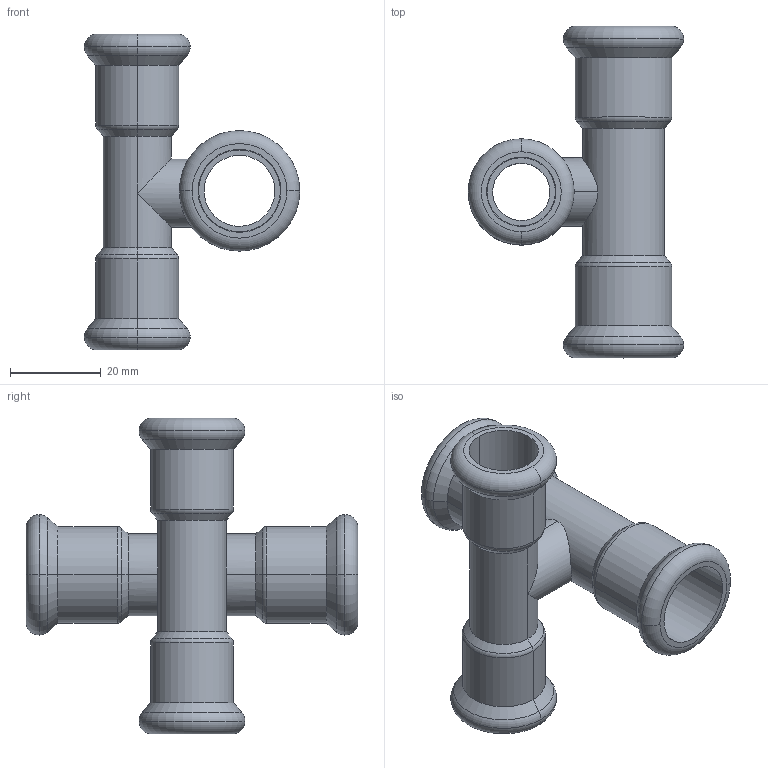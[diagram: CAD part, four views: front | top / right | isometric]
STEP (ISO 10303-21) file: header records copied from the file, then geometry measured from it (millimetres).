
FILE_DESCRIPTION(('CoCreate Modeling STEP Export'),'2;1');
FILE_NAME('C1434 18x15x18x15.stp','2014-11-12T16:27:47',(''),(''),'CoCreate Modeling STEP processor for AP214 (Solid Model)','CoCreate Modeling 17.00A 17-Jun-2010 (C) Parametric Technology GmbH','');
FILE_SCHEMA(('AUTOMOTIVE_DESIGN { 1 0 10303 214 1 1 1 1 }'));
Length unit declared in the file: millimetre
Products named in the file (2): C1434_18x15x18x15
Assembly tree (1 placements, depth 2):
  C1434_18x15x18x15
    C1434_18x15x18x15
Bounding box: 47.4 x 73 x 69.5 mm (x, y, z)
Volume: 14968.6 mm3; surface area: 17765.6 mm2
Topology: 1 solids, 2 shells, 92 faces, 194 edges, 114 vertices
Faces by surface type: cylinder 40, torus 24, cone 16, plane 12
Entity records: 3579 total; most frequent: CARTESIAN_POINT 1871, ORIENTED_EDGE 388, DIRECTION 297, EDGE_CURVE 194, AXIS2_PLACEMENT_3D 122, VERTEX_POINT 114, EDGE_LOOP 104, FACE_OUTER_BOUND 92
